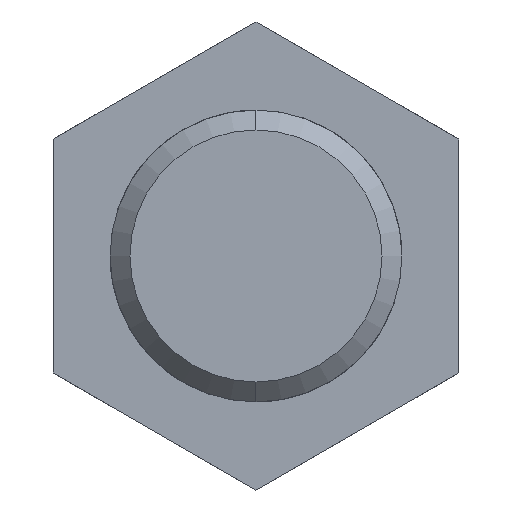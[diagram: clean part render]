
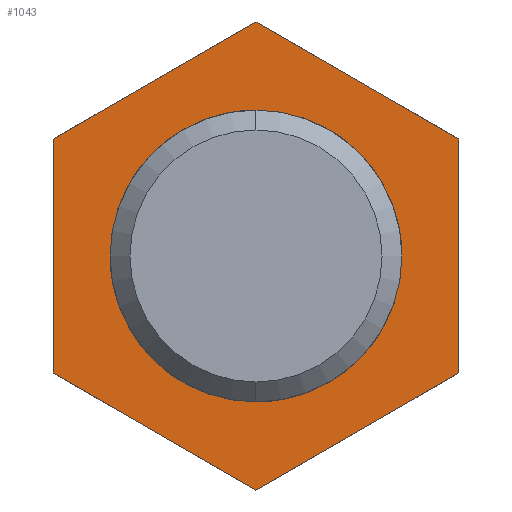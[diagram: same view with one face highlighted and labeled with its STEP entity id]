
A CAD part, front view. The second image highlights one B-rep face of the part: STEP entity #1043.
In plain terms, the highlighted planar face has unit normal (0, -1, 0).
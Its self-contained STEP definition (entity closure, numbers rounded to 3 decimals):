
#859=CARTESIAN_POINT('Vertex',(25.,0.,14.434)) ;
#866=CARTESIAN_POINT('Vertex',(0.,0.,28.868)) ;
#869=CARTESIAN_POINT('Line Origine',(12.5,0.,21.651)) ;
#890=CARTESIAN_POINT('Vertex',(25.,0.,-14.434)) ;
#893=CARTESIAN_POINT('Line Origine',(25.,0.,0.)) ;
#915=CARTESIAN_POINT('Vertex',(0.,0.,-28.868)) ;
#918=CARTESIAN_POINT('Line Origine',(12.5,0.,-21.651)) ;
#939=CARTESIAN_POINT('Vertex',(-25.,0.,-14.434)) ;
#942=CARTESIAN_POINT('Line Origine',(-12.5,0.,-21.651)) ;
#963=CARTESIAN_POINT('Vertex',(-25.,0.,14.434)) ;
#966=CARTESIAN_POINT('Line Origine',(-25.,0.,0.)) ;
#984=CARTESIAN_POINT('Line Origine',(-12.5,0.,21.651)) ;
#996=CARTESIAN_POINT('Axis2P3D Location',(0.,0.,0.)) ;
#1009=CARTESIAN_POINT('Axis2P3D Location',(0.,0.,0.)) ;
#1013=CARTESIAN_POINT('Vertex',(0.,0.,-17.5)) ;
#1015=CARTESIAN_POINT('Vertex',(17.5,0.,0.)) ;
#1018=CARTESIAN_POINT('Axis2P3D Location',(0.,0.,0.)) ;
#1022=CARTESIAN_POINT('Vertex',(-17.5,0.,0.)) ;
#1025=CARTESIAN_POINT('Axis2P3D Location',(0.,0.,0.)) ;
#1029=CARTESIAN_POINT('Vertex',(0.,0.,17.5)) ;
#1032=CARTESIAN_POINT('Axis2P3D Location',(0.,0.,0.)) ;
#870=DIRECTION('Vector Direction',(0.866,0.,-0.5)) ;
#894=DIRECTION('Vector Direction',(0.,0.,-1.)) ;
#919=DIRECTION('Vector Direction',(-0.866,0.,-0.5)) ;
#943=DIRECTION('Vector Direction',(-0.866,0.,0.5)) ;
#967=DIRECTION('Vector Direction',(0.,0.,1.)) ;
#985=DIRECTION('Vector Direction',(0.866,0.,0.5)) ;
#997=DIRECTION('Axis2P3D Direction',(0.,1.,0.)) ;
#998=DIRECTION('Axis2P3D XDirection',(0.,-0.,1.)) ;
#1010=DIRECTION('Axis2P3D Direction',(0.,1.,0.)) ;
#1019=DIRECTION('Axis2P3D Direction',(0.,1.,0.)) ;
#1026=DIRECTION('Axis2P3D Direction',(0.,1.,0.)) ;
#1033=DIRECTION('Axis2P3D Direction',(0.,1.,0.)) ;
#999=AXIS2_PLACEMENT_3D('Plane Axis2P3D',#996,#997,#998) ;
#1011=AXIS2_PLACEMENT_3D('Circle Axis2P3D',#1009,#1010,$) ;
#1020=AXIS2_PLACEMENT_3D('Circle Axis2P3D',#1018,#1019,$) ;
#1027=AXIS2_PLACEMENT_3D('Circle Axis2P3D',#1025,#1026,$) ;
#1034=AXIS2_PLACEMENT_3D('Circle Axis2P3D',#1032,#1033,$) ;
#1002=ORIENTED_EDGE('',*,*,#970,.F.) ;
#1003=ORIENTED_EDGE('',*,*,#946,.F.) ;
#1004=ORIENTED_EDGE('',*,*,#922,.F.) ;
#1005=ORIENTED_EDGE('',*,*,#897,.F.) ;
#1006=ORIENTED_EDGE('',*,*,#873,.F.) ;
#1007=ORIENTED_EDGE('',*,*,#988,.F.) ;
#1038=ORIENTED_EDGE('',*,*,#1017,.F.) ;
#1039=ORIENTED_EDGE('',*,*,#1024,.F.) ;
#1040=ORIENTED_EDGE('',*,*,#1031,.F.) ;
#1041=ORIENTED_EDGE('',*,*,#1036,.F.) ;
#1042=FACE_BOUND('',#1037,.T.) ;
#871=VECTOR('Line Direction',#870,1.) ;
#895=VECTOR('Line Direction',#894,1.) ;
#920=VECTOR('Line Direction',#919,1.) ;
#944=VECTOR('Line Direction',#943,1.) ;
#968=VECTOR('Line Direction',#967,1.) ;
#986=VECTOR('Line Direction',#985,1.) ;
#1043=ADVANCED_FACE('395P-02-040-036',(#1008,#1042),#1000,.F.) ;
#1012=CIRCLE('generated circle',#1011,17.5) ;
#1021=CIRCLE('generated circle',#1020,17.5) ;
#1028=CIRCLE('generated circle',#1027,17.5) ;
#1035=CIRCLE('generated circle',#1034,17.5) ;
#873=EDGE_CURVE('',#867,#860,#872,.T.) ;
#897=EDGE_CURVE('',#860,#891,#896,.T.) ;
#922=EDGE_CURVE('',#891,#916,#921,.T.) ;
#946=EDGE_CURVE('',#916,#940,#945,.T.) ;
#970=EDGE_CURVE('',#940,#964,#969,.T.) ;
#988=EDGE_CURVE('',#964,#867,#987,.T.) ;
#1017=EDGE_CURVE('',#1014,#1016,#1012,.F.) ;
#1024=EDGE_CURVE('',#1023,#1014,#1021,.F.) ;
#1031=EDGE_CURVE('',#1030,#1023,#1028,.F.) ;
#1036=EDGE_CURVE('',#1016,#1030,#1035,.F.) ;
#1001=EDGE_LOOP('',(#1002,#1003,#1004,#1005,#1006,#1007)) ;
#1037=EDGE_LOOP('',(#1038,#1039,#1040,#1041)) ;
#1008=FACE_OUTER_BOUND('',#1001,.T.) ;
#872=LINE('Line',#869,#871) ;
#896=LINE('Line',#893,#895) ;
#921=LINE('Line',#918,#920) ;
#945=LINE('Line',#942,#944) ;
#969=LINE('Line',#966,#968) ;
#987=LINE('Line',#984,#986) ;
#1000=PLANE('Plane',#999) ;
#860=VERTEX_POINT('',#859) ;
#867=VERTEX_POINT('',#866) ;
#891=VERTEX_POINT('',#890) ;
#916=VERTEX_POINT('',#915) ;
#940=VERTEX_POINT('',#939) ;
#964=VERTEX_POINT('',#963) ;
#1014=VERTEX_POINT('',#1013) ;
#1016=VERTEX_POINT('',#1015) ;
#1023=VERTEX_POINT('',#1022) ;
#1030=VERTEX_POINT('',#1029) ;
